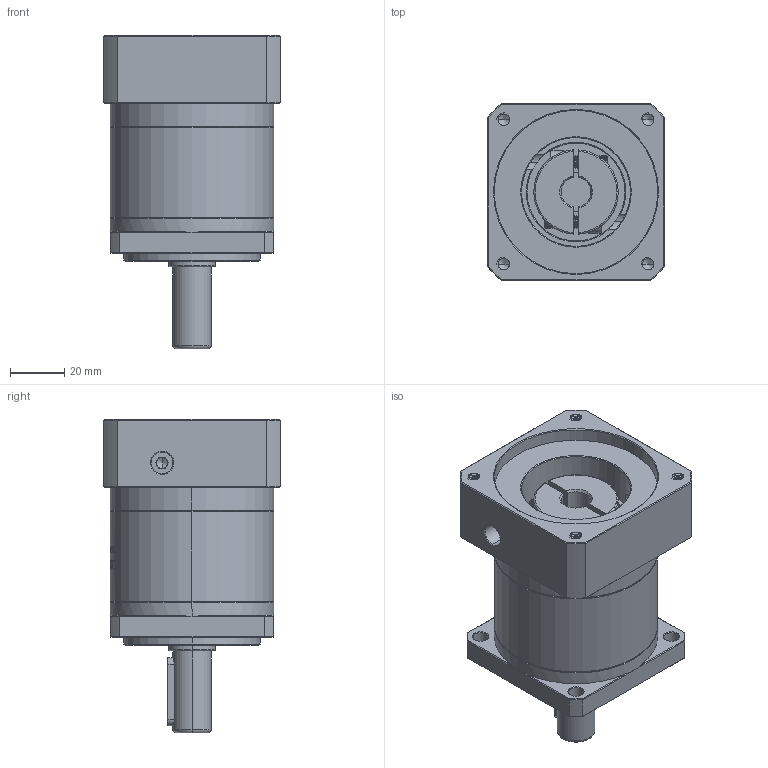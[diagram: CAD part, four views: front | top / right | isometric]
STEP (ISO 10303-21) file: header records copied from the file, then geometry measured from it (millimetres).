
FILE_DESCRIPTION (( 'STEP AP214' ), '1' );
FILE_NAME ('ZF060-D14-L1-P2-11-60-75-M5.step', '2023-08-16T04:22:01', ( '' ), ( '' ), 'SwSTEP 2.0', 'SolidWorks 2016', '' );
FILE_SCHEMA (( 'AUTOMOTIVE_DESIGN' ));
Length unit declared in the file: millimetre
Products named in the file (1): ZF060-D14-L1-P2-11-60-75-M5
Bounding box: 65 x 65 x 115 mm (x, y, z)
Volume: 234272.3 mm3; surface area: 46629.2 mm2
Topology: 6 solids, 6 shells, 1771 faces, 4792 edges, 3105 vertices
Faces by surface type: plane 799, cylinder 364, bspline 354, cone 234, torus 20
Entity records: 101542 total; most frequent: CARTESIAN_POINT 41789, ORIENTED_EDGE 9556, DIRECTION 6848, EDGE_CURVE 4778, VERTEX_POINT 3105, VECTOR 2434, LINE 2434, AXIS2_PLACEMENT_3D 2207
